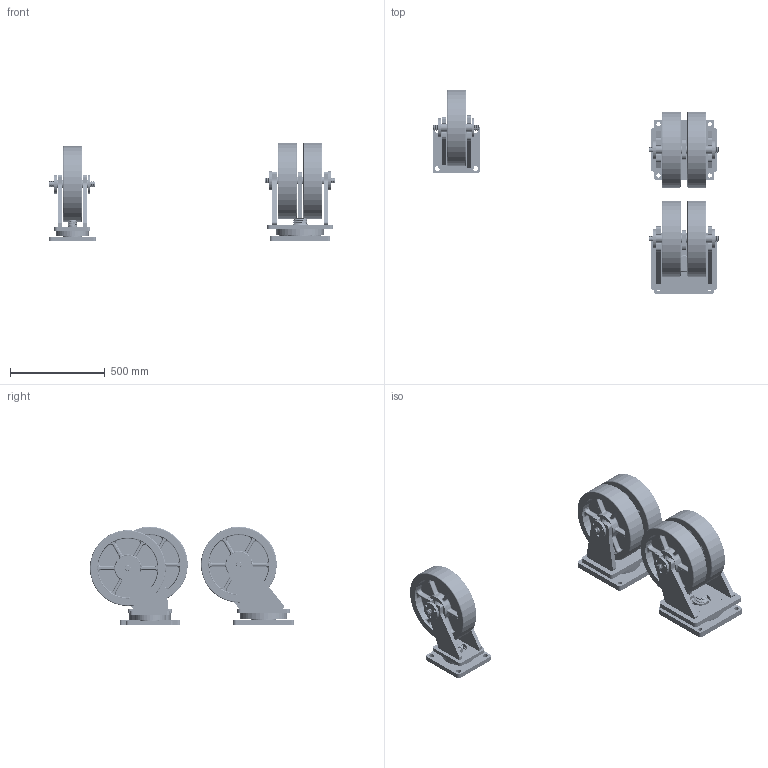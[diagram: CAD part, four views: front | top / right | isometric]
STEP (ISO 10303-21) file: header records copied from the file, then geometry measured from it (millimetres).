
FILE_DESCRIPTION(/* description */ (''),/* implementation_level */ '2;1');
FILE_NAME(/* name */ '42B16寸万向定向.stp',/* time_stamp */ '2024-01-08T14:39:45+08:00',/* author */ (''),/* organization */ (''),/* preprocessor_version */ 'ST-DEVELOPER v16',/* originating_system */ 'SIEMENS PLM Software NX 10.0',/* authorisation */ '');
FILE_SCHEMA (('AUTOMOTIVE_DESIGN { 1 0 10303 214 3 1 1 1 }'));
Products named in the file (1): 16寸
Bounding box: 1510.75 x 1076 x 520 mm (x, y, z)
Volume: 58798024.4 mm3; surface area: 6190195.8 mm2
Topology: 46 solids, 47 shells, 3149 faces, 7696 edges, 4580 vertices
Faces by surface type: bspline 1022, plane 980, cylinder 584, extrusion 270, torus 250, cone 43
Full cylindrical faces by diameter (mm): 6.8 x18, 8.5 x19, 10.5 x16, 12.5 x9, 13 x1, 16 x8, 16.5 x8, 22 x8, 26 x4, 30.4 x6, 40.4 x5, 50 x1, 60 x2, 78 x5, 80 x4, 90 x12, 100 x8, 110 x1, 130 x2, 135 x1, 166 x1, 170 x2, 220 x1, 250 x1, 350 x10, 400 x5
Entity records: 186658 total; most frequent: CARTESIAN_POINT 123240, ORIENTED_EDGE 14316, DIRECTION 10457, EDGE_CURVE 7158, VERTEX_POINT 4493, AXIS2_PLACEMENT_3D 4075, EDGE_LOOP 3719, B_SPLINE_CURVE_WITH_KNOTS 3150
